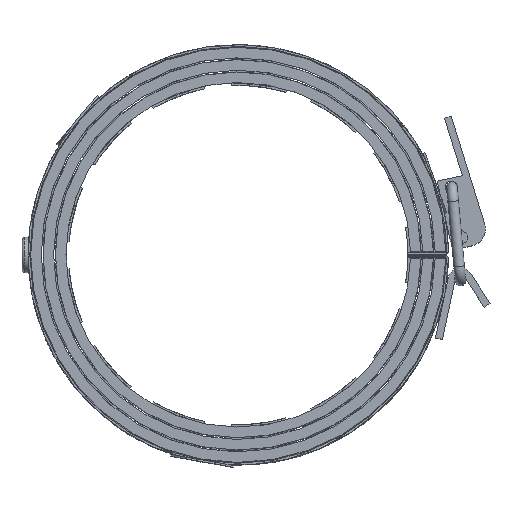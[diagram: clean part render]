
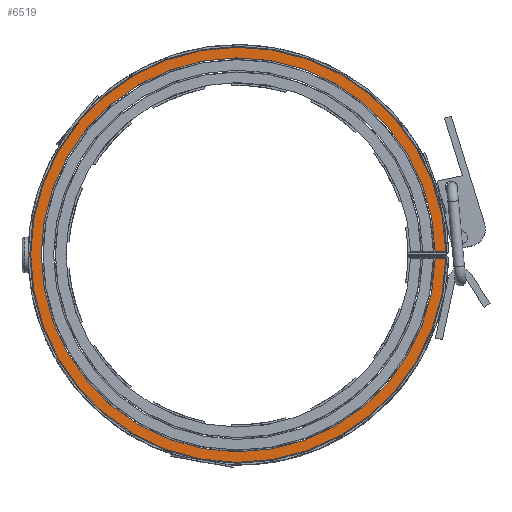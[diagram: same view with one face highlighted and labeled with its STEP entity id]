
A CAD part, top view. The second image highlights one B-rep face of the part: STEP entity #6519.
In plain terms, the highlighted planar face has unit normal (0, 0, 1).
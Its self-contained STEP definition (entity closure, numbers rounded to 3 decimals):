
#256=LINE('',#10231,#798);
#262=LINE('',#10244,#804);
#798=VECTOR('',#8197,3.);
#804=VECTOR('',#8211,3.);
#1206=PLANE('',#7003);
#1570=FACE_OUTER_BOUND('',#1921,.T.);
#1921=EDGE_LOOP('',(#4728,#4729,#4730,#4731));
#2258=CIRCLE('',#6965,55.75);
#2291=CIRCLE('',#7004,58.75);
#2759=VERTEX_POINT('',#10171);
#2760=VERTEX_POINT('',#10173);
#2774=VERTEX_POINT('',#10229);
#2777=VERTEX_POINT('',#10242);
#3451=EDGE_CURVE('',#2760,#2759,#2258,.T.);
#3491=EDGE_CURVE('',#2774,#2759,#256,.T.);
#3497=EDGE_CURVE('',#2777,#2774,#2291,.T.);
#3498=EDGE_CURVE('',#2760,#2777,#262,.T.);
#4728=ORIENTED_EDGE('',*,*,#3451,.T.);
#4729=ORIENTED_EDGE('',*,*,#3491,.F.);
#4730=ORIENTED_EDGE('',*,*,#3497,.F.);
#4731=ORIENTED_EDGE('',*,*,#3498,.F.);
#6519=ADVANCED_FACE('',(#1570),#1206,.T.);
#6965=AXIS2_PLACEMENT_3D('',#10174,#8118,#8119);
#7003=AXIS2_PLACEMENT_3D('',#10241,#8207,#8208);
#7004=AXIS2_PLACEMENT_3D('',#10243,#8209,#8210);
#8118=DIRECTION('center_axis',(0.,0.,
-1.));
#8119=DIRECTION('ref_axis',(1.,0.018,0.));
#8197=DIRECTION('',(-1.,0.,0.));
#8207=DIRECTION('center_axis',(0.,0.,
1.));
#8208=DIRECTION('ref_axis',(1.,0.,0.));
#8209=DIRECTION('center_axis',(0.,0.,-1.));
#8210=DIRECTION('ref_axis',(1.,0.017,0.));
#8211=DIRECTION('',(1.,0.,0.));
#10171=CARTESIAN_POINT('',(55.741,1.,25.));
#10173=CARTESIAN_POINT('',(55.741,-1.,25.));
#10174=CARTESIAN_POINT('Origin',(0.,0.,
25.));
#10229=CARTESIAN_POINT('',(58.741,1.,25.));
#10231=CARTESIAN_POINT('',(48.74,1.,25.));
#10241=CARTESIAN_POINT('Origin',(6.067,0.,
25.));
#10242=CARTESIAN_POINT('',(58.741,-1.,25.));
#10243=CARTESIAN_POINT('Origin',(0.,0.,25.));
#10244=CARTESIAN_POINT('',(58.741,-1.,25.));
